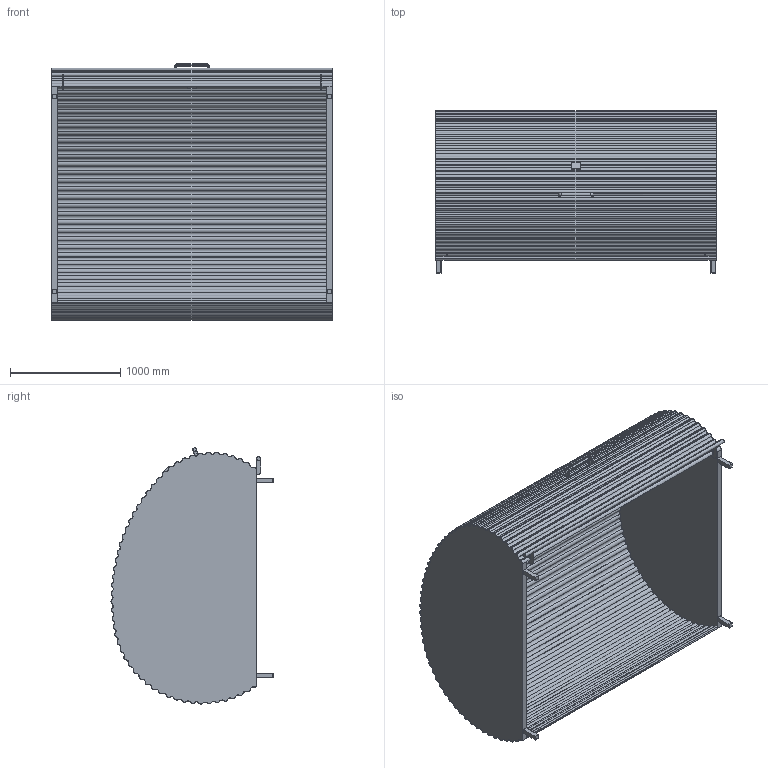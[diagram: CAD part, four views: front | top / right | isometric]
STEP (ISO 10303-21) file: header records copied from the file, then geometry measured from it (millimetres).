
FILE_DESCRIPTION (( 'STEP AP214' ), '1' );
FILE_NAME ('FHG lean model 255.STEP', '2025-03-10T11:04:17', ( '' ), ( '' ), 'SwSTEP 2.0', 'SolidWorks 2023', '' );
FILE_SCHEMA (( 'AUTOMOTIVE_DESIGN' ));
Length unit declared in the file: millimetre
Products named in the file (1): FHG lean model 255
Bounding box: 2550 x 1471.44 x 2326.47 mm (x, y, z)
Volume: 19914977.1 mm3; surface area: 35045675.6 mm2
Topology: 1 solids, 1 shells, 468 faces, 1358 edges, 892 vertices
Faces by surface type: cylinder 366, plane 82, torus 20
Entity records: 16149 total; most frequent: CARTESIAN_POINT 3067, DIRECTION 3036, ORIENTED_EDGE 2716, EDGE_CURVE 1358, AXIS2_PLACEMENT_3D 1241, VERTEX_POINT 892, CIRCLE 772, LINE 554
